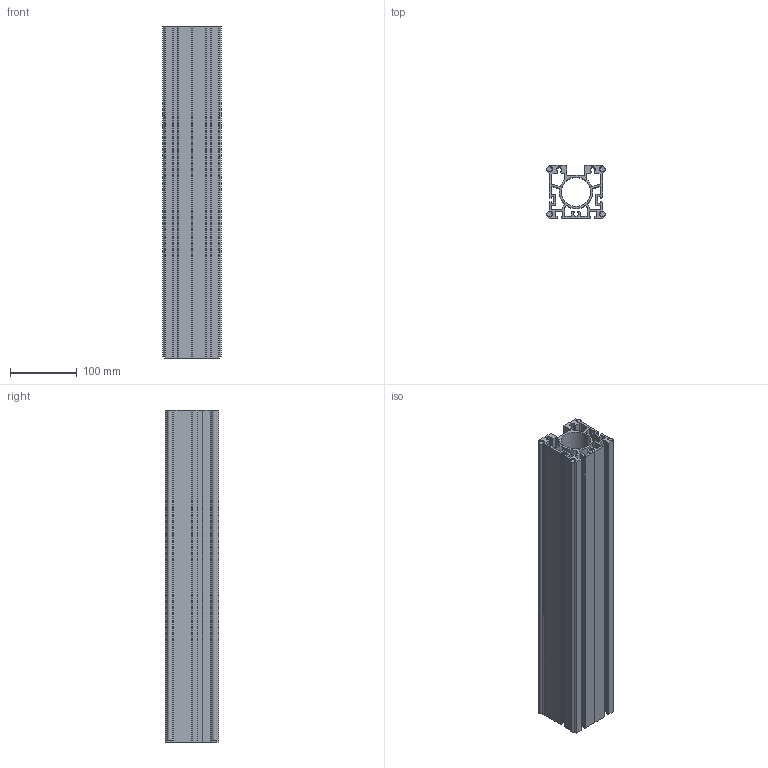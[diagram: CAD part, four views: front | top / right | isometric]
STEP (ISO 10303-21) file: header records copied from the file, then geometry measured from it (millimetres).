
FILE_DESCRIPTION (( 'STEP AP203' ), '1' );
FILE_NAME ('_-_MLF 4 498 mm lang.step', '2005-09-01T12:45:55', ( ' ' ), ( ' ' ), 'SwSTEP 2.0', 'SolidWorks 2005187', '' );
FILE_SCHEMA (( 'CONFIG_CONTROL_DESIGN' ));
Length unit declared in the file: millimetre
Products named in the file (1): _-_MLF 4  498 mm lang
Bounding box: 87.6 x 80 x 498 mm (x, y, z)
Volume: 1146964.8 mm3; surface area: 618783.6 mm2
Topology: 1 solids, 1 shells, 248 faces, 762 edges, 500 vertices
Faces by surface type: plane 174, cylinder 74
Entity records: 8575 total; most frequent: ORIENTED_EDGE 1524, CARTESIAN_POINT 1511, DIRECTION 1408, EDGE_CURVE 762, VECTOR 614, LINE 614, VERTEX_POINT 500, AXIS2_PLACEMENT_3D 397
